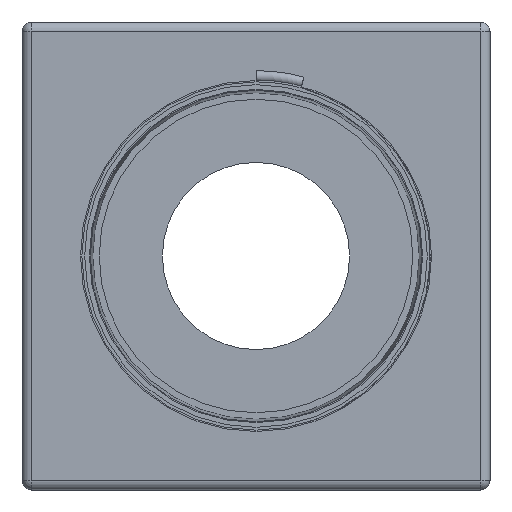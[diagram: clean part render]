
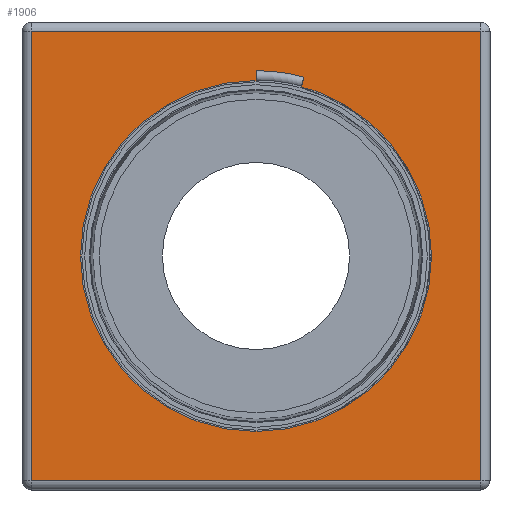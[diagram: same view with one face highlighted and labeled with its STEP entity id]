
A CAD part, front view. The second image highlights one B-rep face of the part: STEP entity #1906.
In plain terms, the highlighted planar face has unit normal (0, -1, 0).
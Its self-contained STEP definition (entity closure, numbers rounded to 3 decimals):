
#76=FACE_BOUND('',#524,.T.);
#105=PLANE('',#2077);
#152=LINE('',#3014,#246);
#156=LINE('',#3034,#250);
#158=LINE('',#3037,#252);
#164=LINE('',#3046,#258);
#246=VECTOR('',#2373,10.);
#250=VECTOR('',#2397,10.);
#252=VECTOR('',#2401,10.);
#258=VECTOR('',#2413,10.);
#402=FACE_OUTER_BOUND('',#523,.T.);
#523=EDGE_LOOP('',(#1380,#1381,#1382,#1383));
#524=EDGE_LOOP('',(#1384,#1385));
#673=CIRCLE('',#2078,187.5);
#674=CIRCLE('',#2079,187.5);
#822=VERTEX_POINT('',#2971);
#831=VERTEX_POINT('',#2995);
#834=VERTEX_POINT('',#3005);
#840=VERTEX_POINT('',#3025);
#842=VERTEX_POINT('',#3057);
#843=VERTEX_POINT('',#3058);
#1036=EDGE_CURVE('',#822,#834,#152,.T.);
#1046=EDGE_CURVE('',#834,#840,#156,.T.);
#1048=EDGE_CURVE('',#840,#831,#158,.T.);
#1054=EDGE_CURVE('',#831,#822,#164,.T.);
#1060=EDGE_CURVE('',#842,#843,#673,.T.);
#1061=EDGE_CURVE('',#843,#842,#674,.T.);
#1380=ORIENTED_EDGE('',*,*,#1036,.F.);
#1381=ORIENTED_EDGE('',*,*,#1054,.F.);
#1382=ORIENTED_EDGE('',*,*,#1048,.F.);
#1383=ORIENTED_EDGE('',*,*,#1046,.F.);
#1384=ORIENTED_EDGE('',*,*,#1060,.T.);
#1385=ORIENTED_EDGE('',*,*,#1061,.T.);
#1906=ADVANCED_FACE('',(#402,#76),#105,.T.);
#2077=AXIS2_PLACEMENT_3D('',#3056,#2427,#2428);
#2078=AXIS2_PLACEMENT_3D('',#3059,#2429,#2430);
#2079=AXIS2_PLACEMENT_3D('',#3060,#2431,#2432);
#2373=DIRECTION('',(0.,0.,1.));
#2397=DIRECTION('',(1.,0.,0.));
#2401=DIRECTION('',(0.,0.,-1.));
#2413=DIRECTION('',(-1.,0.,0.));
#2427=DIRECTION('center_axis',(0.,-1.,0.));
#2428=DIRECTION('ref_axis',(0.,0.,-1.));
#2429=DIRECTION('center_axis',(0.,1.,0.));
#2430=DIRECTION('ref_axis',(0.,0.,1.));
#2431=DIRECTION('center_axis',(0.,1.,0.));
#2432=DIRECTION('ref_axis',(0.,0.,1.));
#2971=CARTESIAN_POINT('',(-240.,-250.,-240.));
#2995=CARTESIAN_POINT('',(240.,-250.,-240.));
#3005=CARTESIAN_POINT('',(-240.,-250.,240.));
#3014=CARTESIAN_POINT('',(-240.,-250.,-125.));
#3025=CARTESIAN_POINT('',(240.,-250.,240.));
#3034=CARTESIAN_POINT('',(-125.,-250.,240.));
#3037=CARTESIAN_POINT('',(240.,-250.,125.));
#3046=CARTESIAN_POINT('',(125.,-250.,-240.));
#3056=CARTESIAN_POINT('Origin',(0.,-250.,0.));
#3057=CARTESIAN_POINT('',(0.,-250.,187.5));
#3058=CARTESIAN_POINT('',(0.,-250.,-187.5));
#3059=CARTESIAN_POINT('Origin',(0.,-250.,0.));
#3060=CARTESIAN_POINT('Origin',(0.,-250.,0.));
